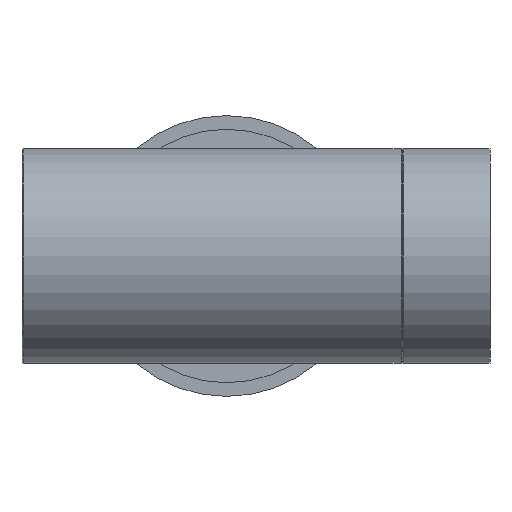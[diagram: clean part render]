
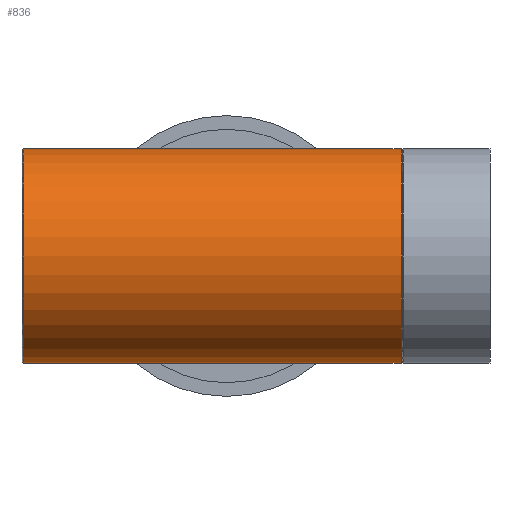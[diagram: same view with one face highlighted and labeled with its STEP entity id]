
A CAD part, left-side view. The second image highlights one B-rep face of the part: STEP entity #836.
In plain terms, the highlighted cylindrical face has radius 55 mm (diameter 110 mm), a full revolution.
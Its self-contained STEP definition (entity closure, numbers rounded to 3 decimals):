
#127=ELLIPSE($,#903,77.782,55.);
#128=ELLIPSE($,#904,77.782,55.);
#131=CYLINDRICAL_SURFACE($,#902,55.);
#162=FACE_BOUND($,#253,.T.);
#163=FACE_BOUND($,#254,.T.);
#164=FACE_BOUND($,#255,.T.);
#253=EDGE_LOOP($,(#576,#577));
#254=EDGE_LOOP($,(#578));
#255=EDGE_LOOP($,(#579));
#337=CIRCLE($,#898,55.);
#339=CIRCLE($,#901,55.);
#394=VERTEX_POINT($,#1306);
#396=VERTEX_POINT($,#1311);
#397=VERTEX_POINT($,#1314);
#398=VERTEX_POINT($,#1315);
#471=EDGE_CURVE($,#394,#394,#337,.T.);
#473=EDGE_CURVE($,#396,#396,#339,.T.);
#474=EDGE_CURVE($,#397,#398,#127,.T.);
#475=EDGE_CURVE($,#398,#397,#128,.T.);
#576=ORIENTED_EDGE($,*,*,#474,.T.);
#577=ORIENTED_EDGE($,*,*,#475,.T.);
#578=ORIENTED_EDGE($,*,*,#473,.T.);
#579=ORIENTED_EDGE($,*,*,#471,.T.);
#836=ADVANCED_FACE($,(#162,#163,#164),#131,.T.);
#898=AXIS2_PLACEMENT_3D($,#1307,#1025,#1026);
#901=AXIS2_PLACEMENT_3D($,#1312,#1031,#1032);
#902=AXIS2_PLACEMENT_3D($,#1313,#1033,#1034);
#903=AXIS2_PLACEMENT_3D($,#1316,#1035,#1036);
#904=AXIS2_PLACEMENT_3D($,#1317,#1037,#1038);
#1025=DIRECTION('center_axis',(0.,1.,0.));
#1026=DIRECTION('ref_axis',(1.,0.,0.));
#1031=DIRECTION('center_axis',(0.,-1.,0.));
#1032=DIRECTION('ref_axis',(1.,0.,0.));
#1033=DIRECTION('center_axis',(0.,1.,0.));
#1034=DIRECTION('ref_axis',(1.,0.,0.));
#1035=DIRECTION('center_axis',(-0.707,-0.707,0.));
#1036=DIRECTION('ref_axis',(0.707,-0.707,0.));
#1037=DIRECTION('center_axis',(-0.707,0.707,0.));
#1038=DIRECTION('ref_axis',(-0.707,-0.707,0.));
#1306=CARTESIAN_POINT('',(0.,45.635,55.));
#1307=CARTESIAN_POINT('Origin',(0.,45.635,0.));
#1311=CARTESIAN_POINT('',(0.,239.365,55.));
#1312=CARTESIAN_POINT('Origin',(0.,239.365,0.));
#1313=CARTESIAN_POINT('Origin',(0.,0.,0.));
#1314=CARTESIAN_POINT('',(0.,135.,-55.));
#1315=CARTESIAN_POINT('',(0.,135.,55.));
#1316=CARTESIAN_POINT('Origin',(0.,135.,0.));
#1317=CARTESIAN_POINT('Origin',(0.,135.,0.));
